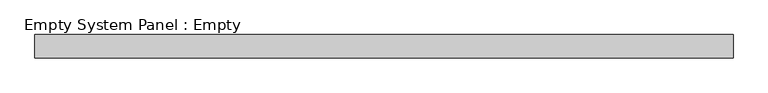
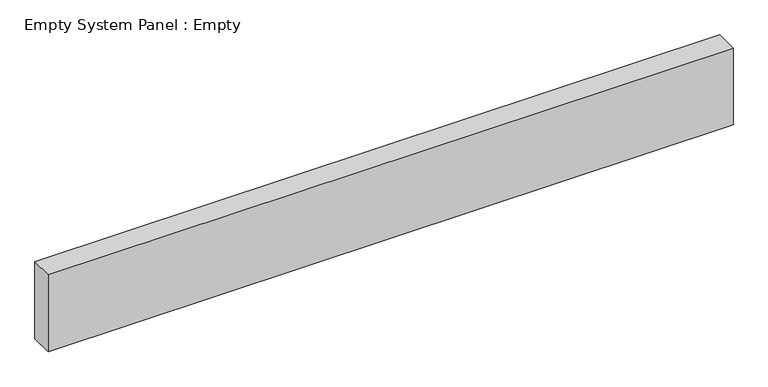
"""IFC4 building model written with IfcOpenShell, lengths in millimetres: plate geometry, Empty System Panel : Empty."""

from ifc_helpers import new_model, si_unit, origin, origin_with_axes, place, context, project, spatial, polyline, outline, extrude, source, transform, mapped, element, save


def empty_system_panel_empty_4c958b02(model_context):
    return source(origin(), model_context, "Body", "SweptSolid", [
        extrude(outline(polyline([(1500.0, -50.0), (-1500.0, -50.0), (-1500.0, 50.0), (1500.0, 50.0), (1500.0, -50.0)])), origin_with_axes(), (0.0, 0.0, 1.0), 355.4522728),
    ])


if __name__ == "__main__":
    model = new_model("IFC4")
    model_context = context("Model", 3, world=origin())
    ifc_project = project(units=[si_unit("LENGTHUNIT", "METRE", prefix="MILLI")], contexts=[model_context])
    site = spatial("IfcSite", under=ifc_project)
    building = spatial("IfcBuilding", under=site)
    placement = place(None, origin())
    empty_system_panel_empty_shape = empty_system_panel_empty_4c958b02(model_context)
    element("IfcPlate", 1, ObjectType="Empty System Panel : Empty", at=placement, inside=building, context=model_context, shape_type="MappedRepresentation", body=[
        mapped(empty_system_panel_empty_shape, transform((0.0, 0.0, 0.0), x_axis=(1.0, 0.0, 0.0), y_axis=(0.0, 1.0, 0.0), z_axis=(0.0, 0.0, 1.0))),
    ])
    save(model, "model.ifc")
